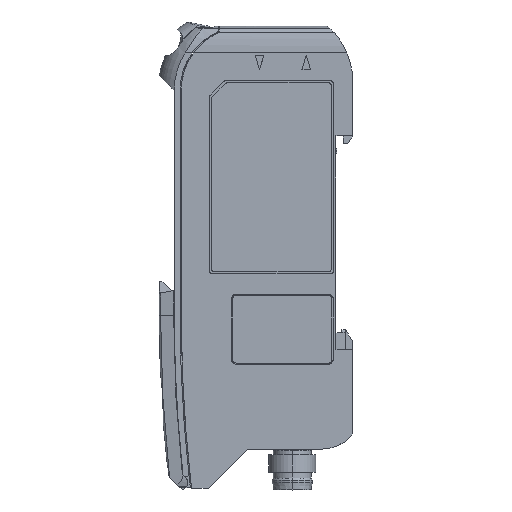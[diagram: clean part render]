
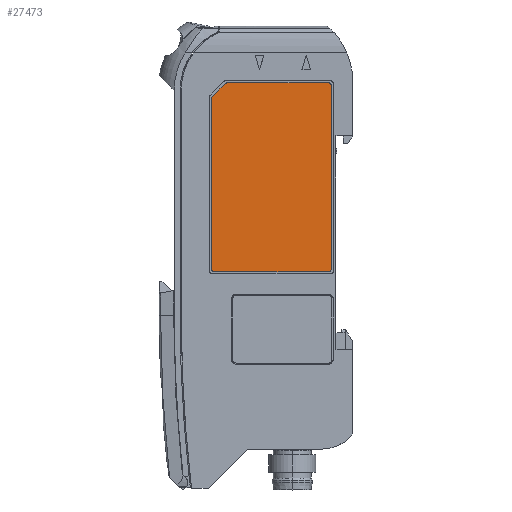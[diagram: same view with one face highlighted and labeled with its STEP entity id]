
A CAD part, left-side view. The second image highlights one B-rep face of the part: STEP entity #27473.
In plain terms, the highlighted planar face has unit normal (-1, 0, 0).
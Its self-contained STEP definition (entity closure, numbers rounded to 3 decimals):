
#369 = CARTESIAN_POINT ( 'NONE',  ( -10.425, 24.203, -12.197 ) ) ;
#751 = DIRECTION ( 'NONE',  ( 0., 0., -1. ) ) ;
#1029 = DIRECTION ( 'NONE',  ( 1., 0., 0. ) ) ;
#1162 = EDGE_CURVE ( 'NONE', #16326, #9860, #2395, .T. ) ;
#1497 = CARTESIAN_POINT ( 'NONE',  ( -10.425, 23.703, -41.597 ) ) ;
#1500 = CIRCLE ( 'NONE', #9822, 0.5 ) ;
#1641 = LINE ( 'NONE', #10466, #21537 ) ;
#2074 = EDGE_CURVE ( 'NONE', #35667, #14914, #14330, .T. ) ;
#2356 = FACE_OUTER_BOUND ( 'NONE', #9901, .T. ) ;
#2365 = DIRECTION ( 'NONE',  ( 0., 0., -1. ) ) ;
#2395 = LINE ( 'NONE', #17345, #18768 ) ;
#2601 = DIRECTION ( 'NONE',  ( 0., 0., 1. ) ) ;
#2988 = EDGE_CURVE ( 'NONE', #23755, #14914, #36965, .T. ) ;
#3396 = CARTESIAN_POINT ( 'NONE',  ( -10.425, 4.203, -9.697 ) ) ;
#3785 = AXIS2_PLACEMENT_3D ( 'NONE', #14559, #23091, #26536 ) ;
#4000 = EDGE_CURVE ( 'NONE', #19043, #34586, #9381, .T. ) ;
#4679 = ORIENTED_EDGE ( 'NONE', *, *, #2988, .T. ) ;
#5146 = VECTOR ( 'NONE', #26925, 1000. ) ;
#5336 = CARTESIAN_POINT ( 'NONE',  ( -10.425, 23.703, -41.597 ) ) ;
#5348 = LINE ( 'NONE', #23879, #22478 ) ;
#6364 = CARTESIAN_POINT ( 'NONE',  ( -10.425, 4.203, -41.597 ) ) ;
#6979 = ORIENTED_EDGE ( 'NONE', *, *, #35929, .T. ) ;
#7125 = VERTEX_POINT ( 'NONE', #3396 ) ;
#7644 = DIRECTION ( 'NONE',  ( 0., 0., -1. ) ) ;
#7736 = ORIENTED_EDGE ( 'NONE', *, *, #4000, .F. ) ;
#8623 = CARTESIAN_POINT ( 'NONE',  ( -10.425, 4.203, -42.097 ) ) ;
#9079 = EDGE_CURVE ( 'NONE', #35667, #34586, #5348, .T. ) ;
#9219 = ORIENTED_EDGE ( 'NONE', *, *, #2074, .F. ) ;
#9381 = CIRCLE ( 'NONE', #19558, 0.5 ) ;
#9822 = AXIS2_PLACEMENT_3D ( 'NONE', #12824, #1029, #9858 ) ;
#9858 = DIRECTION ( 'NONE',  ( 0., 0., -1. ) ) ;
#9860 = VERTEX_POINT ( 'NONE', #19945 ) ;
#9901 = EDGE_LOOP ( 'NONE', ( #6979, #11678, #38824, #33769, #20035, #14036, #4679, #9219, #19507, #7736 ) ) ;
#10466 = CARTESIAN_POINT ( 'NONE',  ( -10.425, 4.203, -42.097 ) ) ;
#10780 = CARTESIAN_POINT ( 'NONE',  ( -10.425, 21.85, -9.843 ) ) ;
#11550 = CARTESIAN_POINT ( 'NONE',  ( -10.425, 4.203, -9.697 ) ) ;
#11678 = ORIENTED_EDGE ( 'NONE', *, *, #27319, .F. ) ;
#11932 = EDGE_CURVE ( 'NONE', #23755, #39290, #1500, .T. ) ;
#12824 = CARTESIAN_POINT ( 'NONE',  ( -10.425, 21.496, -10.197 ) ) ;
#14036 = ORIENTED_EDGE ( 'NONE', *, *, #11932, .F. ) ;
#14330 = CIRCLE ( 'NONE', #19394, 0.5 ) ;
#14559 = CARTESIAN_POINT ( 'NONE',  ( -10.425, 4.203, -10.197 ) ) ;
#14914 = VERTEX_POINT ( 'NONE', #22904 ) ;
#15167 = DIRECTION ( 'NONE',  ( 1., 0., 0. ) ) ;
#16326 = VERTEX_POINT ( 'NONE', #38578 ) ;
#17345 = CARTESIAN_POINT ( 'NONE',  ( -10.425, 3.703, -41.597 ) ) ;
#17508 = DIRECTION ( 'NONE',  ( 0., 0., 1. ) ) ;
#17617 = EDGE_CURVE ( 'NONE', #7125, #39290, #17926, .T. ) ;
#17926 = LINE ( 'NONE', #11550, #5146 ) ;
#18262 = CARTESIAN_POINT ( 'NONE',  ( -10.425, 24.203, -12.404 ) ) ;
#18768 = VECTOR ( 'NONE', #2601, 1000. ) ;
#19043 = VERTEX_POINT ( 'NONE', #22406 ) ;
#19394 = AXIS2_PLACEMENT_3D ( 'NONE', #22591, #34999, #7644 ) ;
#19507 = ORIENTED_EDGE ( 'NONE', *, *, #9079, .T. ) ;
#19558 = AXIS2_PLACEMENT_3D ( 'NONE', #1497, #32452, #38658 ) ;
#19945 = CARTESIAN_POINT ( 'NONE',  ( -10.425, 3.703, -10.197 ) ) ;
#20035 = ORIENTED_EDGE ( 'NONE', *, *, #17617, .T. ) ;
#20899 = DIRECTION ( 'NONE',  ( -1., 0., 0. ) ) ;
#21537 = VECTOR ( 'NONE', #38001, 1000. ) ;
#22406 = CARTESIAN_POINT ( 'NONE',  ( -10.425, 23.703, -42.097 ) ) ;
#22478 = VECTOR ( 'NONE', #2365, 1000. ) ;
#22591 = CARTESIAN_POINT ( 'NONE',  ( -10.425, 23.703, -12.404 ) ) ;
#22804 = CIRCLE ( 'NONE', #39476, 0.5 ) ;
#22904 = CARTESIAN_POINT ( 'NONE',  ( -10.425, 24.057, -12.05 ) ) ;
#23091 = DIRECTION ( 'NONE',  ( 1., 0., 0. ) ) ;
#23755 = VERTEX_POINT ( 'NONE', #10780 ) ;
#23879 = CARTESIAN_POINT ( 'NONE',  ( -10.425, 24.203, -41.597 ) ) ;
#23907 = VECTOR ( 'NONE', #28504, 1000. ) ;
#24686 = CARTESIAN_POINT ( 'NONE',  ( -10.425, 24.203, -41.597 ) ) ;
#26536 = DIRECTION ( 'NONE',  ( 0., 0., -1. ) ) ;
#26925 = DIRECTION ( 'NONE',  ( 0., 1., 0. ) ) ;
#26956 = CARTESIAN_POINT ( 'NONE',  ( -10.425, 21.496, -9.697 ) ) ;
#27319 = EDGE_CURVE ( 'NONE', #16326, #29384, #22804, .T. ) ;
#27473 = ADVANCED_FACE ( 'NONE', ( #2356 ), #35673, .T. ) ;
#28504 = DIRECTION ( 'NONE',  ( 0., 0.707, -0.707 ) ) ;
#29384 = VERTEX_POINT ( 'NONE', #8623 ) ;
#32452 = DIRECTION ( 'NONE',  ( 1., 0., 0. ) ) ;
#33769 = ORIENTED_EDGE ( 'NONE', *, *, #36541, .F. ) ;
#34359 = AXIS2_PLACEMENT_3D ( 'NONE', #5336, #20899, #17508 ) ;
#34586 = VERTEX_POINT ( 'NONE', #24686 ) ;
#34999 = DIRECTION ( 'NONE',  ( 1., 0., 0. ) ) ;
#35667 = VERTEX_POINT ( 'NONE', #18262 ) ;
#35673 = PLANE ( 'NONE',  #34359 ) ;
#35929 = EDGE_CURVE ( 'NONE', #19043, #29384, #1641, .T. ) ;
#36541 = EDGE_CURVE ( 'NONE', #7125, #9860, #36956, .T. ) ;
#36956 = CIRCLE ( 'NONE', #3785, 0.5 ) ;
#36965 = LINE ( 'NONE', #369, #23907 ) ;
#38001 = DIRECTION ( 'NONE',  ( 0., -1., 0. ) ) ;
#38578 = CARTESIAN_POINT ( 'NONE',  ( -10.425, 3.703, -41.597 ) ) ;
#38658 = DIRECTION ( 'NONE',  ( 0., 0., -1. ) ) ;
#38824 = ORIENTED_EDGE ( 'NONE', *, *, #1162, .T. ) ;
#39290 = VERTEX_POINT ( 'NONE', #26956 ) ;
#39476 = AXIS2_PLACEMENT_3D ( 'NONE', #6364, #15167, #751 ) ;
